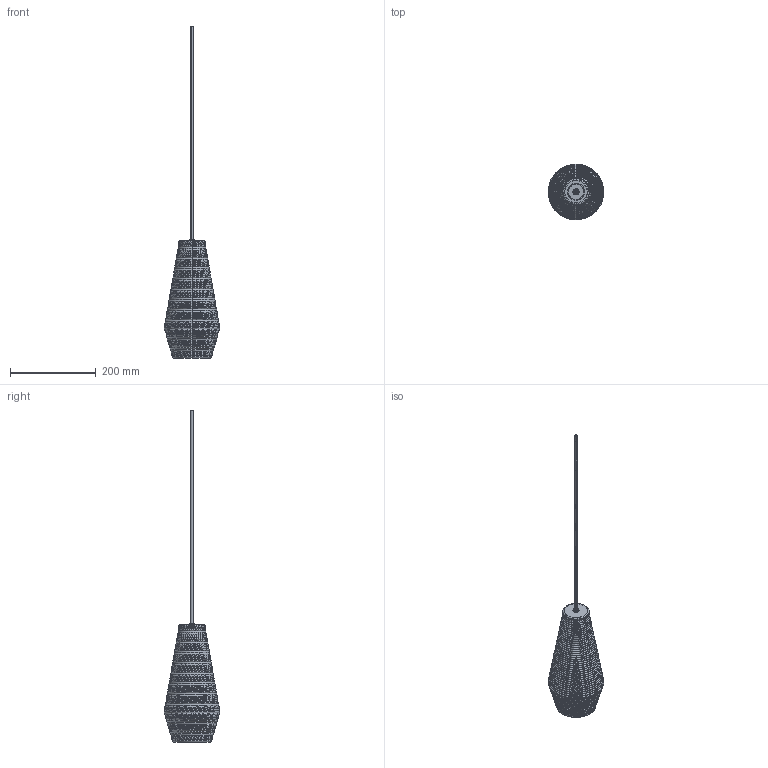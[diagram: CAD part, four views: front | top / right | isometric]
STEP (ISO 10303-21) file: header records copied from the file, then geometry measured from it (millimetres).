
FILE_DESCRIPTION(/* description */ (''),/* implementation_level */ '2;1');
FILE_NAME(/* name */ 'M097.000',/* time_stamp */ '2024-09-02T15:34:49+02:00',/* author */ (''),/* organization */ (''),/* preprocessor_version */ 'ST-DEVELOPER v16.5',/* originating_system */ '',/* authorisation */ '');
FILE_SCHEMA (('AUTOMOTIVE_DESIGN'));
Products named in the file (1): Document
Bounding box: 129.83 x 129.86 x 772.3 mm (x, y, z)
Volume: 338859.2 mm3; surface area: 283271.6 mm2
Topology: 9 solids, 9 shells, 1551 faces, 3646 edges, 2111 vertices
Faces by surface type: bspline 1238, plane 313
Entity records: 205782 total; most frequent: CARTESIAN_POINT 185716, ORIENTED_EDGE 7284, EDGE_CURVE 3642, VERTEX_POINT 2111, EDGE_LOOP 1585, ADVANCED_FACE 1551, FACE_OUTER_BOUND 1551, B_SPLINE_CURVE_WITH_KNOTS 1288
